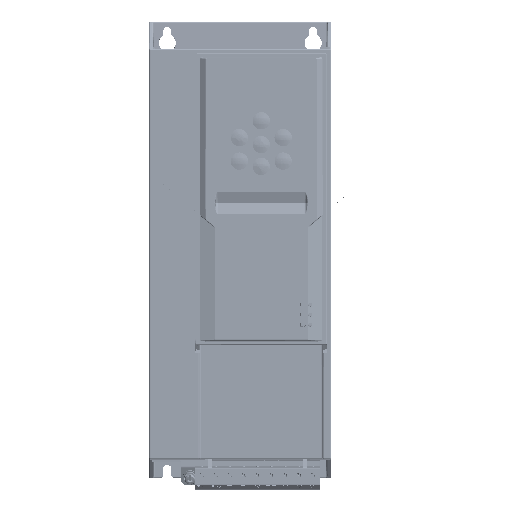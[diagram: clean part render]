
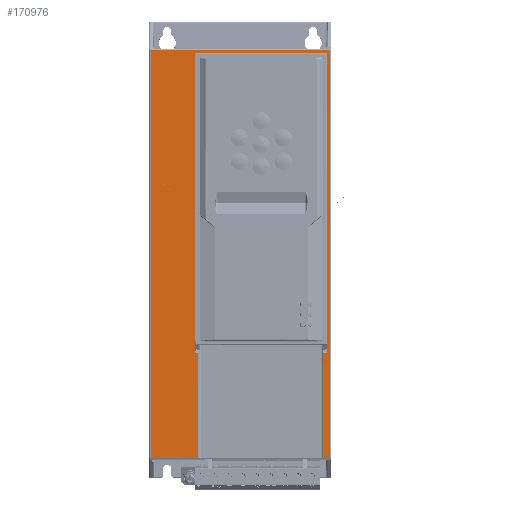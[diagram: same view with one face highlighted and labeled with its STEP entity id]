
A CAD part, top view. The second image highlights one B-rep face of the part: STEP entity #170976.
In plain terms, the highlighted planar face has unit normal (0, 0, 1).
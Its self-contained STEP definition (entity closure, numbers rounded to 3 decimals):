
#26886=DIRECTION('',(-1.,0.,0.));
#26887=VECTOR('',#26886,98.4);
#26888=CARTESIAN_POINT('',(37.7,1.7,0.));
#26889=LINE('',#26888,#26887);
#26893=DIRECTION('',(0.,1.,0.));
#26894=VECTOR('',#26893,223.4);
#26895=CARTESIAN_POINT('',(37.7,-221.7,0.));
#26896=LINE('',#26895,#26894);
#26900=DIRECTION('',(1.,0.,0.));
#26901=VECTOR('',#26900,3.265);
#26902=CARTESIAN_POINT('',(34.435,-221.7,0.));
#26903=LINE('',#26902,#26901);
#26907=DIRECTION('',(0.,-1.,0.));
#26908=VECTOR('',#26907,57.589);
#26909=CARTESIAN_POINT('',(34.435,-164.111,0.));
#26910=LINE('',#26909,#26908);
#26914=DIRECTION('',(-1.,0.,0.));
#26915=VECTOR('',#26914,72.2);
#26916=CARTESIAN_POINT('',(36.1,0.1,0.));
#26917=LINE('',#26916,#26915);
#26921=DIRECTION('',(0.,1.,0.));
#26922=VECTOR('',#26921,57.589);
#26923=CARTESIAN_POINT('',(-34.435,-221.7,0.));
#26924=LINE('',#26923,#26922);
#26928=DIRECTION('',(1.,0.,0.));
#26929=VECTOR('',#26928,26.265);
#26930=CARTESIAN_POINT('',(-60.7,-221.7,0.));
#26931=LINE('',#26930,#26929);
#26935=DIRECTION('',(0.,-1.,0.));
#26936=VECTOR('',#26935,223.4);
#26937=CARTESIAN_POINT('',(-60.7,1.7,0.));
#26938=LINE('',#26937,#26936);
#39322=CARTESIAN_POINT('',(-34.435,-164.111,0.));
#39331=DIRECTION('',(-1.,0.,0.));
#39332=VECTOR('',#39331,1.665);
#39333=CARTESIAN_POINT('',(-34.435,-164.111,0.));
#39334=LINE('',#39333,#39332);
#39345=DIRECTION('',(-1.,0.,0.));
#39346=VECTOR('',#39345,1.665);
#39347=CARTESIAN_POINT('',(36.1,-164.111,0.));
#39348=LINE('',#39347,#39346);
#39356=CARTESIAN_POINT('',(34.435,-164.111,0.));
#127316=DIRECTION('',(0.,1.,0.));
#127317=VECTOR('',#127316,164.211);
#127318=CARTESIAN_POINT('',(-36.1,-164.111,0.));
#127319=LINE('',#127318,#127317);
#127637=DIRECTION('',(0.,-1.,0.));
#127638=VECTOR('',#127637,164.211);
#127639=CARTESIAN_POINT('',(36.1,0.1,0.));
#127640=LINE('',#127639,#127638);
#140002=VERTEX_POINT('',#39322);
#140014=VERTEX_POINT('',#39356);
#140031=CARTESIAN_POINT('',(37.7,1.7,0.));
#140032=CARTESIAN_POINT('',(-60.7,1.7,0.));
#140033=VERTEX_POINT('',#140031);
#140034=VERTEX_POINT('',#140032);
#140039=CARTESIAN_POINT('',(-60.7,-221.7,0.));
#140040=VERTEX_POINT('',#140039);
#140045=CARTESIAN_POINT('',(-34.435,-221.7,0.));
#140046=VERTEX_POINT('',#140045);
#140071=CARTESIAN_POINT('',(34.435,-221.7,0.));
#140072=VERTEX_POINT('',#140071);
#140073=CARTESIAN_POINT('',(37.7,-221.7,0.));
#140074=VERTEX_POINT('',#140073);
#140093=CARTESIAN_POINT('',(36.1,0.1,0.));
#140094=CARTESIAN_POINT('',(-36.1,0.1,0.));
#140095=VERTEX_POINT('',#140093);
#140096=VERTEX_POINT('',#140094);
#140101=CARTESIAN_POINT('',(36.1,-164.111,0.));
#140102=VERTEX_POINT('',#140101);
#140135=CARTESIAN_POINT('',(-36.1,-164.111,0.));
#140136=VERTEX_POINT('',#140135);
#170946=CARTESIAN_POINT('',(0.,0.,0.));
#170947=DIRECTION('',(0.,0.,1.));
#170948=DIRECTION('',(1.,0.,0.));
#170949=AXIS2_PLACEMENT_3D('',#170946,#170947,#170948);
#170950=PLANE('',#170949);
#170952=ORIENTED_EDGE('',*,*,#170951,.F.);
#170953=ORIENTED_EDGE('',*,*,#169442,.F.);
#170955=ORIENTED_EDGE('',*,*,#170954,.F.);
#170957=ORIENTED_EDGE('',*,*,#170956,.F.);
#170959=ORIENTED_EDGE('',*,*,#170958,.F.);
#170961=ORIENTED_EDGE('',*,*,#170960,.F.);
#170963=ORIENTED_EDGE('',*,*,#170962,.T.);
#170965=ORIENTED_EDGE('',*,*,#170964,.F.);
#170967=ORIENTED_EDGE('',*,*,#170966,.F.);
#170969=ORIENTED_EDGE('',*,*,#170968,.F.);
#170971=ORIENTED_EDGE('',*,*,#170970,.F.);
#170973=ORIENTED_EDGE('',*,*,#170972,.F.);
#170974=EDGE_LOOP('',(#170952,#170953,#170955,#170957,#170959,#170961,#170963,
#170965,#170967,#170969,#170971,#170973));
#170975=FACE_OUTER_BOUND('',#170974,.F.);
#170976=ADVANCED_FACE('',(#170975),#170950,.T.);
#169442=EDGE_CURVE('',#140074,#140033,#26896,.T.);
#170951=EDGE_CURVE('',#140033,#140034,#26889,.T.);
#170954=EDGE_CURVE('',#140072,#140074,#26903,.T.);
#170956=EDGE_CURVE('',#140014,#140072,#26910,.T.);
#170958=EDGE_CURVE('',#140102,#140014,#39348,.T.);
#170960=EDGE_CURVE('',#140095,#140102,#127640,.T.);
#170962=EDGE_CURVE('',#140095,#140096,#26917,.T.);
#170964=EDGE_CURVE('',#140136,#140096,#127319,.T.);
#170966=EDGE_CURVE('',#140002,#140136,#39334,.T.);
#170968=EDGE_CURVE('',#140046,#140002,#26924,.T.);
#170970=EDGE_CURVE('',#140040,#140046,#26931,.T.);
#170972=EDGE_CURVE('',#140034,#140040,#26938,.T.);
